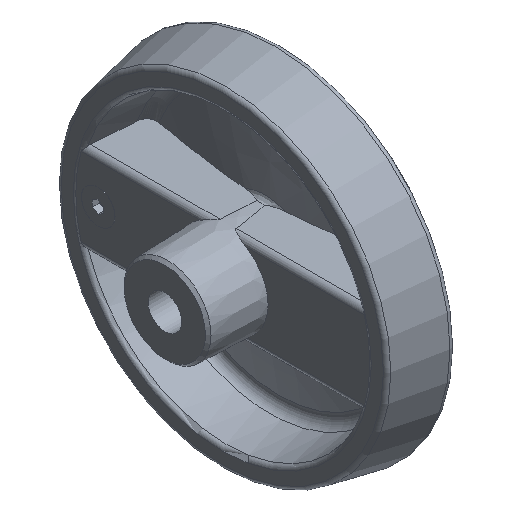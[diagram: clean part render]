
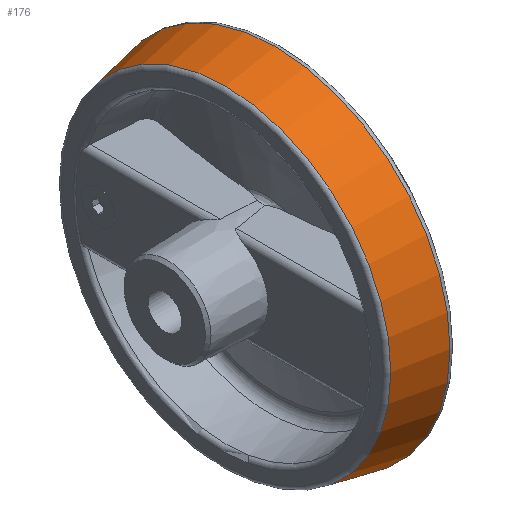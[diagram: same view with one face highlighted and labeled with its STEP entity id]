
A CAD part, isometric view. The second image highlights one B-rep face of the part: STEP entity #176.
In plain terms, the highlighted conical face has half-angle 10.934 degrees and reference radius 59.051 mm.
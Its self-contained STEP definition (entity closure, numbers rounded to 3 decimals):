
#176 = ADVANCED_FACE( '', ( #297, #298 ), #299, .T. );
#297 = FACE_OUTER_BOUND( '', #578, .T. );
#298 = FACE_BOUND( '', #579, .T. );
#299 = CONICAL_SURFACE( '', #580, 59.051, 0.191 );
#578 = EDGE_LOOP( '', ( #984 ) );
#579 = EDGE_LOOP( '', ( #985 ) );
#580 = AXIS2_PLACEMENT_3D( '', #986, #987, #988 );
#984 = ORIENTED_EDGE( '', *, *, #1713, .F. );
#985 = ORIENTED_EDGE( '', *, *, #1716, .T. );
#986 = CARTESIAN_POINT( '', ( 21.715, 0., 0. ) );
#987 = DIRECTION( '', ( 1., 0., 0. ) );
#988 = DIRECTION( '', ( 0., 0., -1. ) );
#1713 = EDGE_CURVE( '', #1964, #1964, #1965, .T. );
#1716 = EDGE_CURVE( '', #1970, #1970, #1971, .T. );
#1964 = VERTEX_POINT( '', #2491 );
#1965 = CIRCLE( '', #2492, 62.473 );
#1970 = VERTEX_POINT( '', #2497 );
#1971 = CIRCLE( '', #2498, 59.051 );
#2491 = CARTESIAN_POINT( '', ( 39.427, 0., -62.473 ) );
#2492 = AXIS2_PLACEMENT_3D( '', #3166, #3167, #3168 );
#2497 = CARTESIAN_POINT( '', ( 21.715, 0., -59.051 ) );
#2498 = AXIS2_PLACEMENT_3D( '', #3175, #3176, #3177 );
#3166 = CARTESIAN_POINT( '', ( 39.427, 0., 0. ) );
#3167 = DIRECTION( '', ( 1., 0., 0. ) );
#3168 = DIRECTION( '', ( 0., 0., -1. ) );
#3175 = CARTESIAN_POINT( '', ( 21.715, 0., 0. ) );
#3176 = DIRECTION( '', ( 1., 0., 0. ) );
#3177 = DIRECTION( '', ( 0., 0., -1. ) );
